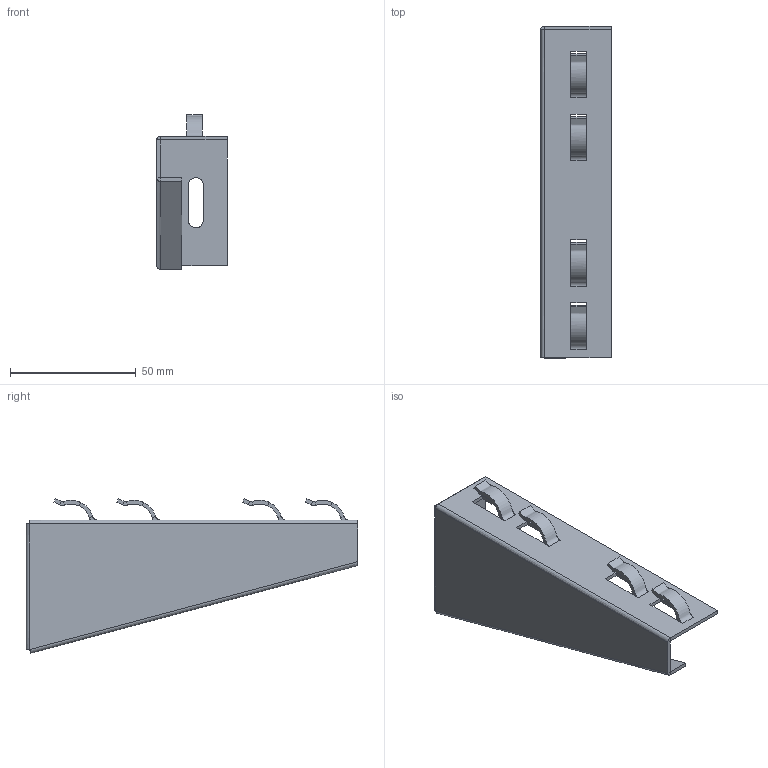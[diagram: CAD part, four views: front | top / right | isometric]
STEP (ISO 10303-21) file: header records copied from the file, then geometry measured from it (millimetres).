
FILE_DESCRIPTION(/* description */ (''),/* implementation_level */ '2;1');
FILE_NAME(/* name */ 'NZM100',/* time_stamp */ '2012-11-29T22:24:35+01:00',/* author */ (''),/* organization */ (''),/* preprocessor_version */ 'ST-DEVELOPER v10',/* originating_system */ '',/* authorisation */ '');
FILE_SCHEMA (('AUTOMOTIVE_DESIGN_CC2'));
Length unit declared in the file: millimetre
Products named in the file (1): 1
Bounding box: 28 x 132 x 61.45 mm (x, y, z)
Surface area: 22514.7 mm2 (no closed solid volume)
Topology: 0 solids, 107 shells, 107 faces, 554 edges, 554 vertices
Faces by surface type: bspline 71, plane 36
Entity records: 8004 total; most frequent: CARTESIAN_POINT 4522, ORIENTED_EDGE 554, EDGE_CURVE 554, VERTEX_POINT 554, B_SPLINE_CURVE_WITH_KNOTS 263, EDGE_LOOP 117, COLOUR_RGB 107, FILL_AREA_STYLE_COLOUR 107
